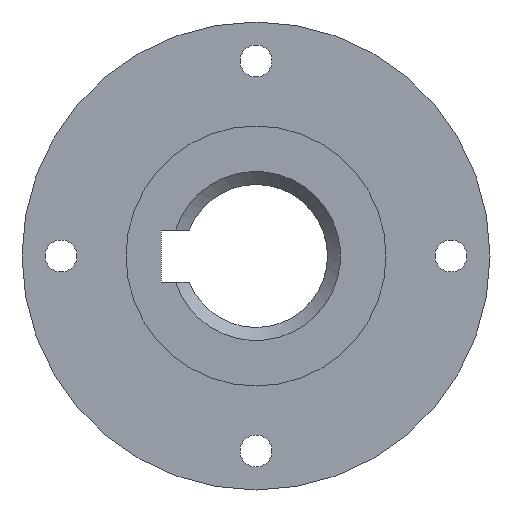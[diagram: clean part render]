
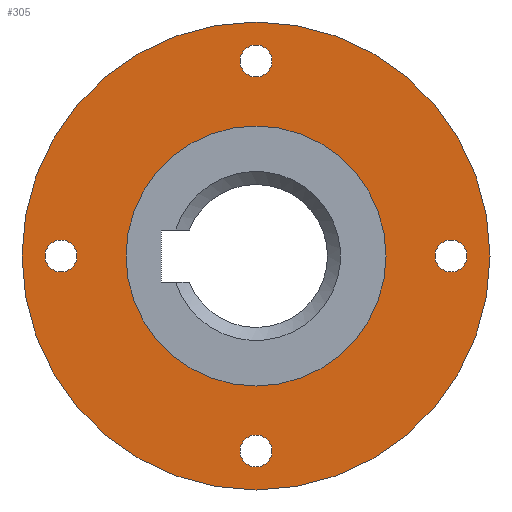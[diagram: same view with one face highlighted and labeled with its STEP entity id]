
A CAD part, left-side view. The second image highlights one B-rep face of the part: STEP entity #305.
In plain terms, the highlighted planar face has unit normal (-1, 0, 0).
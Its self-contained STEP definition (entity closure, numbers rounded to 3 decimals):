
#22=FACE_BOUND('',#78,.T.);
#23=FACE_BOUND('',#79,.T.);
#24=FACE_BOUND('',#80,.T.);
#25=FACE_BOUND('',#81,.T.);
#26=FACE_BOUND('',#82,.T.);
#33=PLANE('',#363);
#53=FACE_OUTER_BOUND('',#77,.T.);
#77=EDGE_LOOP('',(#272));
#78=EDGE_LOOP('',(#273));
#79=EDGE_LOOP('',(#274));
#80=EDGE_LOOP('',(#275));
#81=EDGE_LOOP('',(#276));
#82=EDGE_LOOP('',(#277));
#121=CIRCLE('',#332,1.23);
#123=CIRCLE('',#335,1.23);
#125=CIRCLE('',#338,1.23);
#127=CIRCLE('',#341,1.23);
#136=CIRCLE('',#360,10.);
#138=CIRCLE('',#364,18.);
#140=VERTEX_POINT('',#462);
#142=VERTEX_POINT('',#468);
#144=VERTEX_POINT('',#474);
#146=VERTEX_POINT('',#480);
#162=VERTEX_POINT('',#534);
#164=VERTEX_POINT('',#541);
#167=EDGE_CURVE('',#140,#140,#121,.T.);
#170=EDGE_CURVE('',#142,#142,#123,.T.);
#173=EDGE_CURVE('',#144,#144,#125,.T.);
#176=EDGE_CURVE('',#146,#146,#127,.T.);
#199=EDGE_CURVE('',#162,#162,#136,.T.);
#202=EDGE_CURVE('',#164,#164,#138,.T.);
#272=ORIENTED_EDGE('',*,*,#202,.F.);
#273=ORIENTED_EDGE('',*,*,#167,.T.);
#274=ORIENTED_EDGE('',*,*,#170,.T.);
#275=ORIENTED_EDGE('',*,*,#173,.T.);
#276=ORIENTED_EDGE('',*,*,#176,.T.);
#277=ORIENTED_EDGE('',*,*,#199,.T.);
#305=ADVANCED_FACE('',(#53,#22,#23,#24,#25,#26),#33,.T.);
#332=AXIS2_PLACEMENT_3D('',#464,#373,#374);
#335=AXIS2_PLACEMENT_3D('',#470,#380,#381);
#338=AXIS2_PLACEMENT_3D('',#476,#387,#388);
#341=AXIS2_PLACEMENT_3D('',#482,#394,#395);
#360=AXIS2_PLACEMENT_3D('',#535,#444,#445);
#363=AXIS2_PLACEMENT_3D('',#540,#451,#452);
#364=AXIS2_PLACEMENT_3D('',#542,#453,#454);
#373=DIRECTION('center_axis',(1.,0.,0.));
#374=DIRECTION('ref_axis',(0.,-1.,0.));
#380=DIRECTION('center_axis',(1.,0.,0.));
#381=DIRECTION('ref_axis',(0.,0.,1.));
#387=DIRECTION('center_axis',(1.,0.,0.));
#388=DIRECTION('ref_axis',(0.,1.,0.));
#394=DIRECTION('center_axis',(1.,0.,0.));
#395=DIRECTION('ref_axis',(0.,0.,-1.));
#444=DIRECTION('center_axis',(1.,0.,0.));
#445=DIRECTION('ref_axis',(0.,1.,0.));
#451=DIRECTION('center_axis',(-1.,0.,0.));
#452=DIRECTION('ref_axis',(0.,0.,1.));
#453=DIRECTION('center_axis',(1.,0.,0.));
#454=DIRECTION('ref_axis',(0.,1.,0.));
#462=CARTESIAN_POINT('',(8.,1.23,-15.));
#464=CARTESIAN_POINT('Origin',(8.,0.,-15.));
#468=CARTESIAN_POINT('',(8.,-15.,-1.23));
#470=CARTESIAN_POINT('Origin',(8.,-15.,0.));
#474=CARTESIAN_POINT('',(8.,-1.23,15.));
#476=CARTESIAN_POINT('Origin',(8.,0.,15.));
#480=CARTESIAN_POINT('',(8.,15.,1.23));
#482=CARTESIAN_POINT('Origin',(8.,15.,0.));
#534=CARTESIAN_POINT('',(8.,-10.,0.));
#535=CARTESIAN_POINT('Origin',(8.,0.,0.));
#540=CARTESIAN_POINT('Origin',(8.,9.,0.));
#541=CARTESIAN_POINT('',(8.,-18.,0.));
#542=CARTESIAN_POINT('Origin',(8.,0.,0.));
